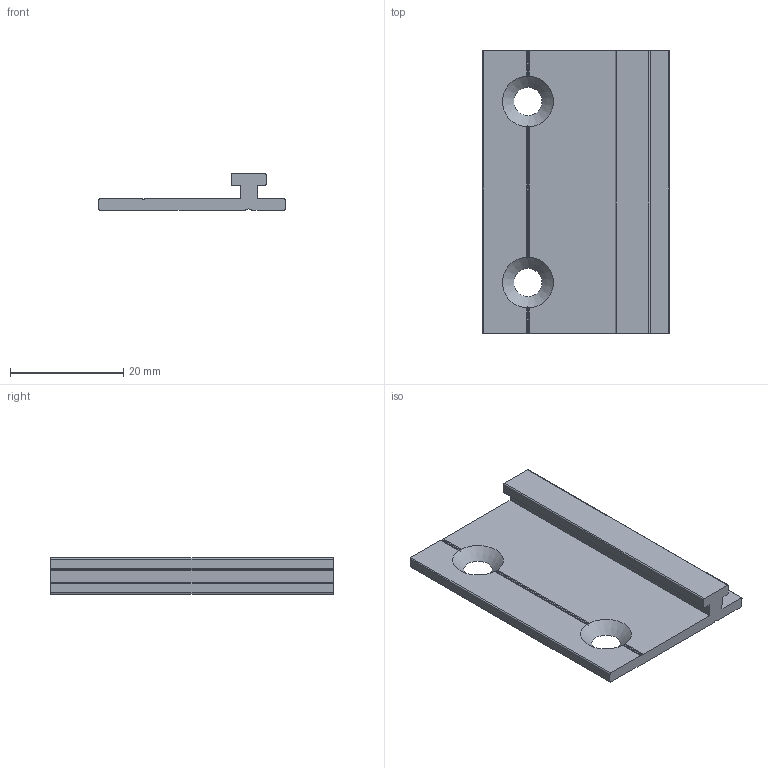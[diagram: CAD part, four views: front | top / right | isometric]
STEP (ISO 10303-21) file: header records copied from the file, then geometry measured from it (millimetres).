
FILE_DESCRIPTION(/* description */ ('Unknown'),/* implementation_level */ '2;1');
FILE_NAME(/* name */ '032 003 05 Mocowanie montażowe L=50',/* time_stamp */ '2023-04-17T14:22:11+02:00',/* author */ ('Unknown'),/* organization */ ('Unknown'),/* preprocessor_version */ 'ST-DEVELOPER v18.102',/* originating_system */ 'Solid Edge',/* authorisation */ 'Unknown');
FILE_SCHEMA (('AUTOMOTIVE_DESIGN {1 0 10303 214 3 1 1}'));
Length unit declared in the file: millimetre
Products named in the file (1): 032 003 05 Mocowanie monta¿owe L=50
Bounding box: 33 x 50 x 6.4 mm (x, y, z)
Volume: 4110.6 mm3; surface area: 4354.8 mm2
Topology: 1 solids, 1 shells, 43 faces, 127 edges, 84 vertices
Faces by surface type: plane 22, cylinder 19, cone 2
Entity records: 1485 total; most frequent: CARTESIAN_POINT 301, ORIENTED_EDGE 250, DIRECTION 233, EDGE_CURVE 125, VERTEX_POINT 84, AXIS2_PLACEMENT_3D 80, LINE 73, VECTOR 73
